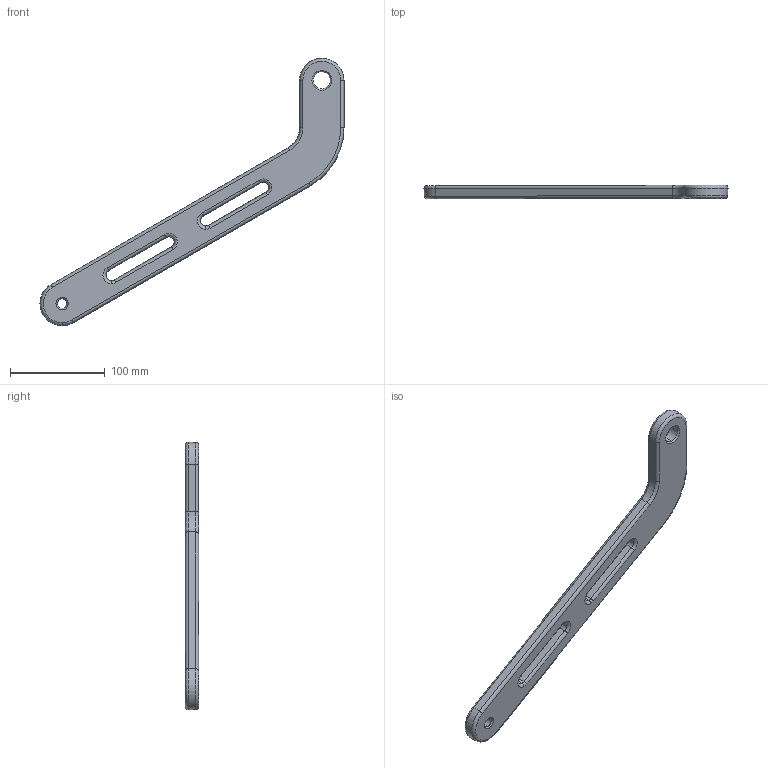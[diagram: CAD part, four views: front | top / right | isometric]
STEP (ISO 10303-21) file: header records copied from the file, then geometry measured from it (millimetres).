
FILE_DESCRIPTION (( 'STEP AP214' ), '1' );
FILE_NAME ('10119V001_90059_Torarm_L289mm_Index_4.STEP', '2014-07-22T14:08:13', ( 'Admin' ), ( '' ), 'SwSTEP 2.0', 'SolidWorks 2014', '' );
FILE_SCHEMA (( 'AUTOMOTIVE_DESIGN' ));
Length unit declared in the file: millimetre
Products named in the file (1): 10119V001_90059_Torarm_L289mm_Index_4
Bounding box: 320.81 x 14 x 282.44 mm (x, y, z)
Volume: 240736.8 mm3; surface area: 50875.3 mm2
Topology: 1 solids, 1 shells, 163 faces, 396 edges, 246 vertices
Faces by surface type: bspline 55, cylinder 30, plane 30, torus 29, cone 19
Entity records: 8105 total; most frequent: CARTESIAN_POINT 4517, ORIENTED_EDGE 792, DIRECTION 635, EDGE_CURVE 396, VERTEX_POINT 246, AXIS2_PLACEMENT_3D 240, EDGE_LOOP 182, FACE_OUTER_BOUND 163
